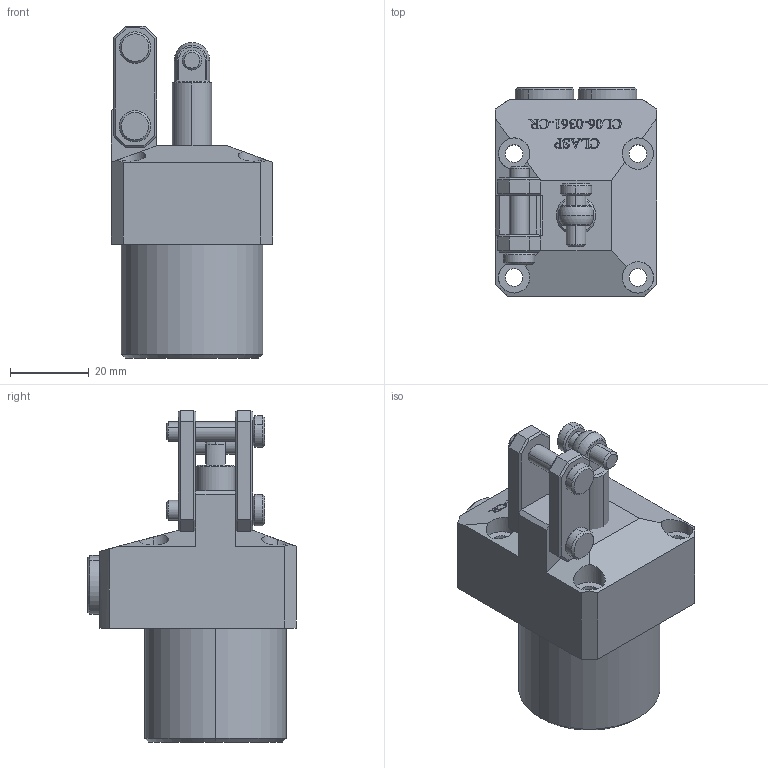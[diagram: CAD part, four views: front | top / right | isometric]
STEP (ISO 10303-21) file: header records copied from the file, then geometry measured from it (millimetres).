
FILE_DESCRIPTION (( 'STEP AP203' ), '1' );
FILE_NAME ('CL.06_0361CR.STEP', '2022-07-05T17:17:46', ( '' ), ( '' ), 'SwSTEP 2.0', 'SolidWorks 2017', '' );
FILE_SCHEMA (( 'CONFIG_CONTROL_DESIGN' ));
Length unit declared in the file: millimetre
Products named in the file (7): CL06.-0361 CR Body; CL06.-0361 CR piston _1; CL06.-0361 CR  Link -3; CL06.-0361 CR Link pin_4; CL06.-0361 CR Link pin_5; CL06.-0361 CR Plug  _8; CL.06_0361CR
Assembly tree (9 placements, depth 2):
  CL.06_0361CR
    CL06.-0361 CR Body
    CL06.-0361 CR piston _1
    CL06.-0361 CR  Link -3  x2
    CL06.-0361 CR Link pin_4  x2
    CL06.-0361 CR Link pin_5
    CL06.-0361 CR Plug  _8  x2
Bounding box: 41 x 53 x 84.51 mm (x, y, z)
Volume: 80776.3 mm3; surface area: 19735.9 mm2
Topology: 9 solids, 9 shells, 539 faces, 1386 edges, 899 vertices
Faces by surface type: plane 248, bspline 188, cylinder 69, cone 32, sphere 2
Entity records: 23537 total; most frequent: CARTESIAN_POINT 12034, ORIENTED_EDGE 2524, DIRECTION 1618, EDGE_CURVE 1262, VERTEX_POINT 827, VECTOR 732, LINE 732, EDGE_LOOP 535
